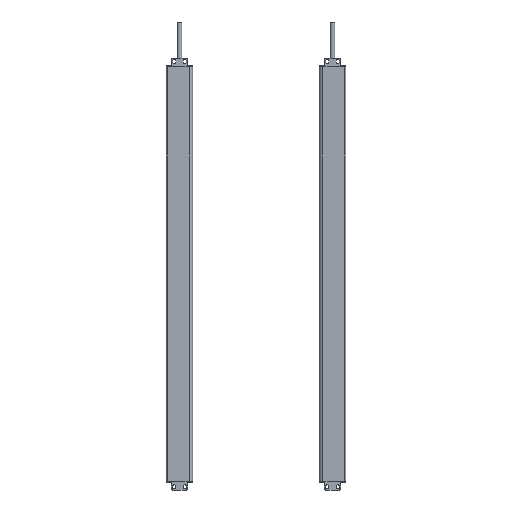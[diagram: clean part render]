
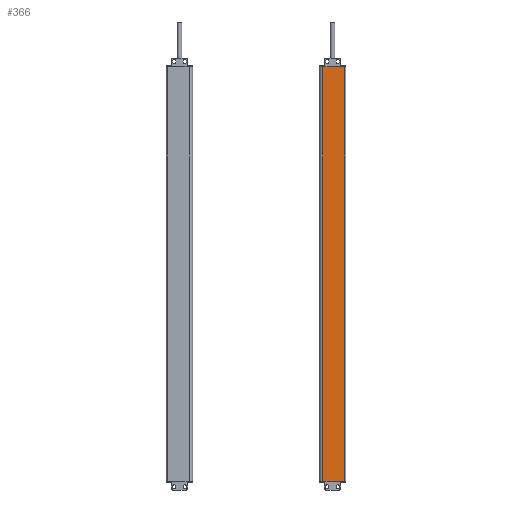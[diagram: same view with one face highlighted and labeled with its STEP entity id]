
A CAD part, front view. The second image highlights one B-rep face of the part: STEP entity #366.
In plain terms, the highlighted planar face has unit normal (0, -1, 0).
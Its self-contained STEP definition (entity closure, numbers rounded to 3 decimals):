
#123=PLANE('',#5869);
#366=ADVANCED_FACE('',(#797),#123,.T.);
#797=FACE_OUTER_BOUND('',#1073,.T.);
#1073=EDGE_LOOP('',(#1780,#1781,#1782,#1783));
#1780=ORIENTED_EDGE('',*,*,#3977,.T.);
#1781=ORIENTED_EDGE('',*,*,#3978,.F.);
#1782=ORIENTED_EDGE('',*,*,#3979,.F.);
#1783=ORIENTED_EDGE('',*,*,#3903,.T.);
#3351=VERTEX_POINT('',#8106);
#3352=VERTEX_POINT('',#8108);
#3421=VERTEX_POINT('',#8253);
#3422=VERTEX_POINT('',#8257);
#3903=EDGE_CURVE('',#3352,#3351,#4726,.T.);
#3977=EDGE_CURVE('',#3351,#3421,#4771,.T.);
#3978=EDGE_CURVE('',#3422,#3421,#4772,.T.);
#3979=EDGE_CURVE('',#3352,#3422,#4773,.T.);
#4726=LINE('',#8107,#5280);
#4771=LINE('',#8254,#5325);
#4772=LINE('',#8256,#5326);
#4773=LINE('',#8258,#5327);
#5280=VECTOR('',#6413,1.);
#5325=VECTOR('',#6522,1.);
#5326=VECTOR('',#6525,1.);
#5327=VECTOR('',#6526,1.);
#5869=AXIS2_PLACEMENT_3D('',#8259,#6527,#6528);
#6413=DIRECTION('',(1.,0.,0.));
#6522=DIRECTION('',(0.,0.,1.));
#6525=DIRECTION('',(1.,0.,0.));
#6526=DIRECTION('',(0.,0.,1.));
#6527=DIRECTION('',(0.,-1.,0.));
#6528=DIRECTION('',(1.,0.,0.));
#8106=CARTESIAN_POINT('',(3.35,-1.3,-100.));
#8107=CARTESIAN_POINT('',(-21.15,-1.3,-100.));
#8108=CARTESIAN_POINT('',(-21.15,-1.3,-100.));
#8253=CARTESIAN_POINT('',(3.35,-1.3,362.));
#8254=CARTESIAN_POINT('',(3.35,-1.3,-100.));
#8256=CARTESIAN_POINT('',(-4122.897,-1.3,362.));
#8257=CARTESIAN_POINT('',(-21.15,-1.3,362.));
#8258=CARTESIAN_POINT('',(-21.15,-1.3,-100.));
#8259=CARTESIAN_POINT('',(-21.15,-1.3,-100.));
